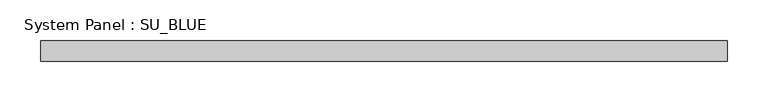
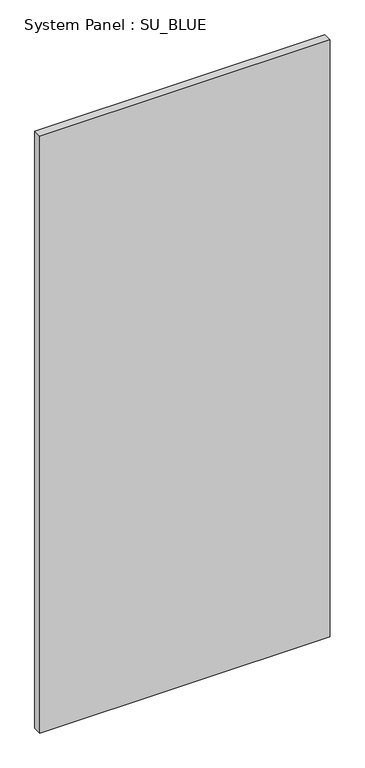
"""IFC4 building model written with IfcOpenShell, lengths in millimetres: plate geometry, System Panel : SU_BLUE."""

from ifc_helpers import new_model, si_unit, origin, origin_with_axes, place, context, project, spatial, polyline, outline, extrude, source, transform, mapped, element, save


def system_panel_su_blue_775d8c72(model_context):
    return source(origin(), model_context, "Body", "SweptSolid", [
        extrude(outline(polyline([(420.7943243, 19.05), (-420.7943243, 19.05), (-420.7943243, 44.45), (420.7943243, 44.45), (420.7943243, 19.05)])), origin_with_axes(), (0.0, 0.0, 1.0), 1828.8),
    ])


if __name__ == "__main__":
    model = new_model("IFC4")
    model_context = context("Model", 3, world=origin())
    ifc_project = project(units=[si_unit("LENGTHUNIT", "METRE", prefix="MILLI")], contexts=[model_context])
    site = spatial("IfcSite", under=ifc_project)
    building = spatial("IfcBuilding", under=site)
    placement = place(None, origin())
    system_panel_su_blue_shape = system_panel_su_blue_775d8c72(model_context)
    element("IfcPlate", 1, ObjectType="System Panel : SU_BLUE", at=placement, inside=building, context=model_context, shape_type="MappedRepresentation", body=[
        mapped(system_panel_su_blue_shape, transform((0.0, 0.0, 0.0), x_axis=(1.0, 0.0, 0.0), y_axis=(0.0, 1.0, 0.0), z_axis=(0.0, 0.0, 1.0))),
    ])
    save(model, "model.ifc")
